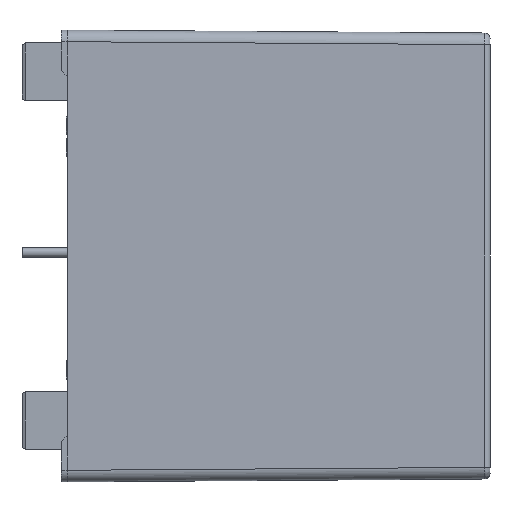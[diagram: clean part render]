
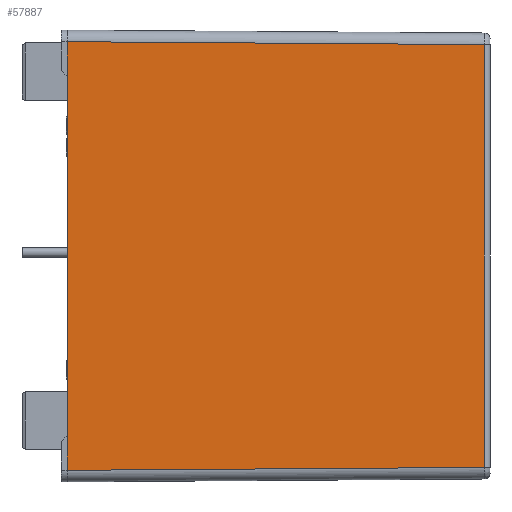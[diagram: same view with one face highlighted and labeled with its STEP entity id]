
A CAD part, left-side view. The second image highlights one B-rep face of the part: STEP entity #57887.
In plain terms, the highlighted planar face has unit normal (-1, -0.007, 0).
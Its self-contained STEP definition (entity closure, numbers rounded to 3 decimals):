
#18416=ORIENTED_EDGE('',*,*,#28816,.T.);
#18417=ORIENTED_EDGE('',*,*,#28814,.T.);
#18418=ORIENTED_EDGE('',*,*,#28810,.T.);
#18419=ORIENTED_EDGE('',*,*,#28823,.T.);
#18420=ORIENTED_EDGE('',*,*,#28824,.T.);
#18421=ORIENTED_EDGE('',*,*,#28820,.T.);
#28810=EDGE_CURVE('',#34912,#34911,#40238,.T.);
#28814=EDGE_CURVE('',#34913,#34912,#40239,.T.);
#28816=EDGE_CURVE('',#34914,#34913,#40240,.T.);
#28820=EDGE_CURVE('',#34916,#34914,#40242,.T.);
#28823=EDGE_CURVE('',#34911,#34918,#40245,.T.);
#28824=EDGE_CURVE('',#34918,#34916,#40246,.T.);
#34911=VERTEX_POINT('',#106618);
#34912=VERTEX_POINT('',#106626);
#34913=VERTEX_POINT('',#106661);
#34914=VERTEX_POINT('',#106690);
#34916=VERTEX_POINT('',#106702);
#34918=VERTEX_POINT('',#106708);
#40238=LINE('',#106625,#45658);
#40239=LINE('',#106662,#45659);
#40240=LINE('',#106689,#45660);
#40242=LINE('',#106701,#45662);
#40245=LINE('',#106707,#45665);
#40246=LINE('',#106709,#45666);
#45658=VECTOR('',#76331,1000.);
#45659=VECTOR('',#76334,1000.);
#45660=VECTOR('',#76337,1000.);
#45662=VECTOR('',#76345,1000.);
#45665=VECTOR('',#76350,1000.);
#45666=VECTOR('',#76351,1000.);
#49584=EDGE_LOOP('',(#18416,#18417,#18418,#18419,#18420,#18421));
#52979=FACE_BOUND('',#49584,.T.);
#54925=PLANE('',#62798);
#57887=ADVANCED_FACE('',(#52979),#54925,.T.);
#62798=AXIS2_PLACEMENT_3D('',#106706,#76348,#76349);
#76331=DIRECTION('',(-0.007,1.,0.007));
#76334=DIRECTION('',(0.,0.,1.));
#76337=DIRECTION('',(0.007,-1.,0.007));
#76345=DIRECTION('',(0.,0.,-1.));
#76348=DIRECTION('',(-1.,-0.007,0.));
#76349=DIRECTION('',(0.,0.,1.));
#76350=DIRECTION('',(0.,0.,-1.));
#76351=DIRECTION('',(0.,0.,-1.));
#106618=CARTESIAN_POINT('',(-9.9,0.4,18.5));
#106625=CARTESIAN_POINT('',(-9.649,-35.603,18.249));
#106626=CARTESIAN_POINT('',(-9.649,-35.603,18.249));
#106661=CARTESIAN_POINT('',(-9.649,-35.603,-18.249));
#106662=CARTESIAN_POINT('',(-9.649,-35.603,-18.249));
#106689=CARTESIAN_POINT('',(-9.9,0.4,-18.5));
#106690=CARTESIAN_POINT('',(-9.9,0.4,-18.5));
#106701=CARTESIAN_POINT('',(-9.9,0.4,-15.5));
#106702=CARTESIAN_POINT('',(-9.9,0.4,-15.5));
#106706=CARTESIAN_POINT('',(-9.9,0.4,20.189));
#106707=CARTESIAN_POINT('',(-9.9,0.4,18.5));
#106708=CARTESIAN_POINT('',(-9.9,0.4,15.5));
#106709=CARTESIAN_POINT('',(-9.9,0.4,15.5));
